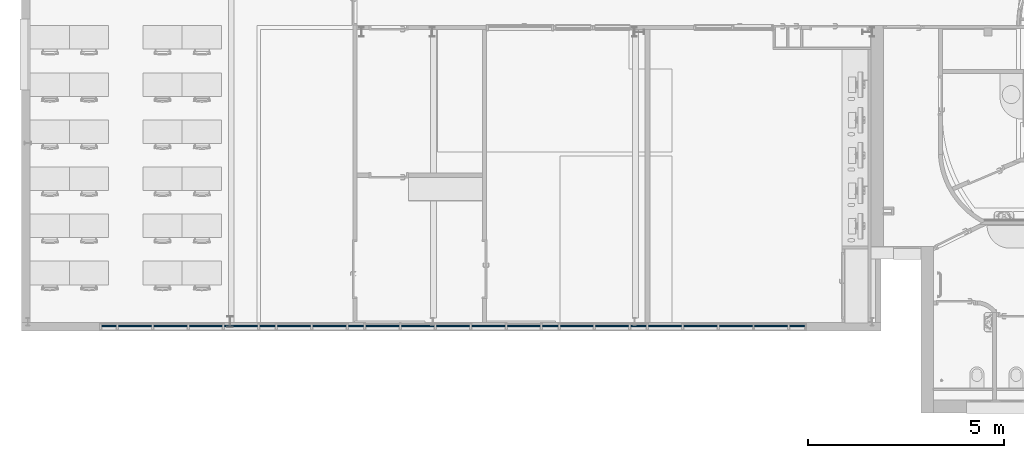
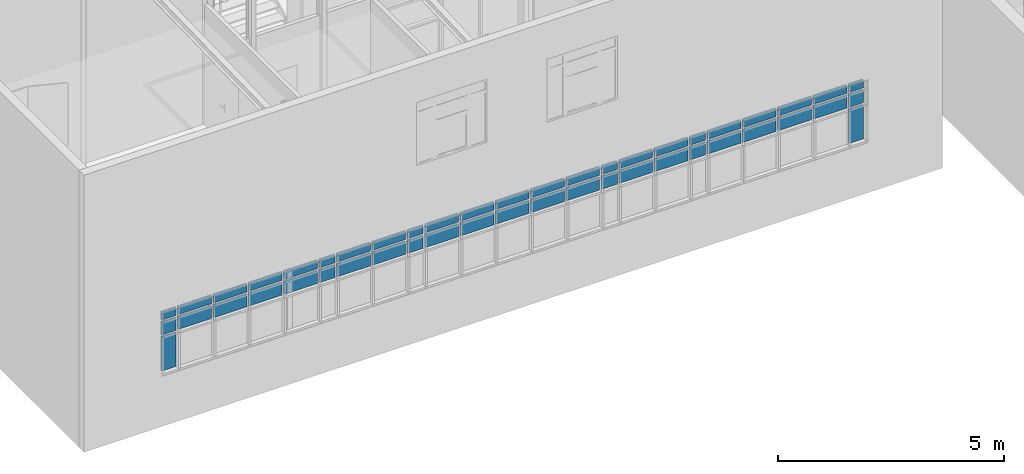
# One storey, part 33 of 137: 48 plates, 1 element without a shape of its own.
"""IFC2X3 building model written with IfcOpenShell, lengths in centimetres."""

from ifc_helpers import new_model, entity, si_unit, converted_unit, derived_unit, direction, frame, frame_2d, origin, place, context, subcontext, project, spatial, rectangle, extrude, source, transform, mapped, material, type_object, type_shapes, element, aggregate, save


model = new_model("IFC2X3")

# Units and contexts
model_context = context("Model", 3, precision=0.001, world=origin(), true_north=direction((6.12303176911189e-17, 1.0)))
body_context = subcontext(model_context, "Body", "Model", "MODEL_VIEW")
ifc_project = project(units=[si_unit("LENGTHUNIT", "METRE", prefix="CENTI"), si_unit("AREAUNIT", "SQUARE_METRE"), si_unit("VOLUMEUNIT", "CUBIC_METRE"), converted_unit("PLANEANGLEUNIT", "DEGREE", entity("IfcRatioMeasure", 0.0174532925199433), si_unit("PLANEANGLEUNIT", "RADIAN"), dimensions=[0, 0, 0, 0, 0, 0, 0]), si_unit("MASSUNIT", "GRAM", prefix="KILO"), si_unit("TIMEUNIT", "SECOND"), si_unit("FREQUENCYUNIT", "HERTZ"), si_unit("THERMODYNAMICTEMPERATUREUNIT", "DEGREE_CELSIUS"), derived_unit("THERMALTRANSMITTANCEUNIT", [(si_unit("MASSUNIT", "GRAM", prefix="KILO"), 1), (si_unit("THERMODYNAMICTEMPERATUREUNIT", "KELVIN"), -1), (si_unit("TIMEUNIT", "SECOND"), -3)]), derived_unit("VOLUMETRICFLOWRATEUNIT", [(si_unit("LENGTHUNIT", "METRE"), 3), (si_unit("TIMEUNIT", "SECOND"), -1)]), si_unit("ELECTRICCURRENTUNIT", "AMPERE"), si_unit("ELECTRICVOLTAGEUNIT", "VOLT"), si_unit("POWERUNIT", "WATT"), si_unit("FORCEUNIT", "NEWTON", prefix="KILO"), si_unit("ILLUMINANCEUNIT", "LUX"), si_unit("LUMINOUSFLUXUNIT", "LUMEN"), si_unit("LUMINOUSINTENSITYUNIT", "CANDELA"), derived_unit("USERDEFINED", [(si_unit("MASSUNIT", "GRAM", prefix="KILO"), -1), (si_unit("LENGTHUNIT", "METRE"), -2), (si_unit("TIMEUNIT", "SECOND"), 3), (si_unit("LUMINOUSFLUXUNIT", "LUMEN"), 1)]), derived_unit("LINEARVELOCITYUNIT", [(si_unit("LENGTHUNIT", "METRE"), 1), (si_unit("TIMEUNIT", "SECOND"), -1)]), si_unit("PRESSUREUNIT", "PASCAL"), derived_unit("USERDEFINED", [(si_unit("LENGTHUNIT", "METRE"), -2), (si_unit("MASSUNIT", "GRAM", prefix="KILO"), 1), (si_unit("TIMEUNIT", "SECOND"), -2)])], contexts=[model_context])

# Site, building, storey
site_placement = place(None, frame((8.62739174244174, -249.285249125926, 0.0)))
site = spatial("IfcSite", under=ifc_project, at=site_placement, Name="Default", CompositionType="ELEMENT")
building_placement = place(site_placement, origin())
building = spatial("IfcBuilding", under=site, at=building_placement, CompositionType="ELEMENT")
storey_placement = place(building_placement, origin())
storey = spatial("IfcBuildingStorey", under=building, at=storey_placement, Name="RDC", CompositionType="ELEMENT", Elevation=-8.82465566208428e-11)

# Curtain wall, plates
curtain_wall_type = type_object("IfcCurtainWallType", Name="Mur-rideau:Simple panneau", PredefinedType="NOTDEFINED")
curtain_wall_placement = place(storey_placement, origin())
curtain_wall = element("IfcCurtainWall", 1, at=curtain_wall_placement, inside=storey, type_object=curtain_wall_type, Name="Mur-rideau:Simple panneau", ObjectType="Mur-rideau:Simple panneau")
ifc_material_1 = material(Name="Par défaut")
plate_type_1 = type_object("IfcPlateType", Name="Plein", PredefinedType="CURTAIN_PANEL", material=ifc_material_1)
shared_shape_1 = source(origin(), body_context, "Body", "SweptSolid", [
    extrude(rectangle(XDim=4.0, YDim=37.5000000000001, at=frame_2d((-4.44089209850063e-16, -1.77635683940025e-15), x_axis=(1.0, 0.0))), frame((0.0, 2.5, 0.0), z_axis=(0.0, 0.0, 1.0), x_axis=(0.0, 1.0, 0.0)), (0.0, 0.0, 1.0), 92.5),
])
type_shapes(plate_type_1, [shared_shape_1])
plate_1_placement = place(curtain_wall_placement, frame((222.75, 11.0, 115.0)))
plate_1 = element("IfcPlate", 2, at=plate_1_placement, type_object=plate_type_1, material=ifc_material_1, Name="Panneau système:Plein", ObjectType="Plein", context=body_context, shape_type="MappedRepresentation", body=[
    mapped(shared_shape_1, transform((0.0, 0.0, 0.0), scale=1.0)),
])
plate_2_placement = place(curtain_wall_placement, frame((1975.25, 11.0, 115.0)))
plate_2 = element("IfcPlate", 3, at=plate_2_placement, type_object=plate_type_1, material=ifc_material_1, Name="Panneau système:Plein", ObjectType="Plein", context=body_context, shape_type="MappedRepresentation", body=[
    mapped(shared_shape_1, transform((0.0, 0.0, 0.0), scale=1.0)),
])
plate_type_2 = type_object("IfcPlateType", Name="Plein", PredefinedType="CURTAIN_PANEL", material=ifc_material_1)
shared_shape_2 = source(origin(), body_context, "Body", "SweptSolid", [
    extrude(rectangle(XDim=4.0, YDim=37.5000000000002, at=frame_2d((-4.44089209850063e-16, 0.0), x_axis=(1.0, 0.0))), frame((0.0, 2.5, 0.0), z_axis=(0.0, 0.0, 1.0), x_axis=(0.0, 1.0, 0.0)), (0.0, 0.0, 1.0), 35.0),
])
type_shapes(plate_type_2, [shared_shape_2])
plate_3_placement = place(curtain_wall_placement, frame((222.75, 11.0, 212.500000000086)))
plate_3 = element("IfcPlate", 4, at=plate_3_placement, type_object=plate_type_2, material=ifc_material_1, Name="Panneau système:Plein", ObjectType="Plein", context=body_context, shape_type="MappedRepresentation", body=[
    mapped(shared_shape_2, transform((0.0, 0.0, 0.0), scale=1.0)),
])
plate_4_placement = place(curtain_wall_placement, frame((1975.25, 11.0, 212.500000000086)))
plate_4 = element("IfcPlate", 5, at=plate_4_placement, type_object=plate_type_2, material=ifc_material_1, Name="Panneau système:Plein", ObjectType="Plein", context=body_context, shape_type="MappedRepresentation", body=[
    mapped(shared_shape_2, transform((0.0, 0.0, 0.0), scale=1.0)),
])
ifc_material_2 = material(Name="Verre")
plate_type_3 = type_object("IfcPlateType", Name="Vitré", PredefinedType="CURTAIN_PANEL", material=ifc_material_2)
shared_shape_3 = source(origin(), body_context, "Body", "SweptSolid", [
    extrude(rectangle(XDim=4.0, YDim=85.0, at=frame_2d((-4.44089209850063e-16, 0.0), x_axis=(1.0, 0.0))), frame((0.0, 2.5, 0.0), z_axis=(0.0, 0.0, 1.0), x_axis=(0.0, 1.0, 0.0)), (0.0, 0.0, 1.0), 35.0),
])
type_shapes(plate_type_3, [shared_shape_3])
plate_5_placement = place(curtain_wall_placement, frame((289.0, 11.0, 212.500000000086)))
plate_5 = element("IfcPlate", 6, at=plate_5_placement, type_object=plate_type_3, material=ifc_material_2, Name="Panneau système:Vitré", ObjectType="Vitré", context=body_context, shape_type="MappedRepresentation", body=[
    mapped(shared_shape_3, transform((0.0, 0.0, 0.0), scale=1.0)),
])
plate_6_placement = place(curtain_wall_placement, frame((379.0, 11.0, 212.500000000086)))
plate_6 = element("IfcPlate", 7, at=plate_6_placement, type_object=plate_type_3, material=ifc_material_2, Name="Panneau système:Vitré", ObjectType="Vitré", context=body_context, shape_type="MappedRepresentation", body=[
    mapped(shared_shape_3, transform((0.0, 0.0, 0.0), scale=1.0)),
])
plate_7_placement = place(curtain_wall_placement, frame((469.0, 11.0, 212.500000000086)))
plate_7 = element("IfcPlate", 8, at=plate_7_placement, type_object=plate_type_3, material=ifc_material_2, Name="Panneau système:Vitré", ObjectType="Vitré", context=body_context, shape_type="MappedRepresentation", body=[
    mapped(shared_shape_3, transform((0.0, 0.0, 0.0), scale=1.0)),
])
plate_8_placement = place(curtain_wall_placement, frame((694.0, 11.0, 212.500000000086)))
plate_8 = element("IfcPlate", 9, at=plate_8_placement, type_object=plate_type_3, material=ifc_material_2, Name="Panneau système:Vitré", ObjectType="Vitré", context=body_context, shape_type="MappedRepresentation", body=[
    mapped(shared_shape_3, transform((0.0, 0.0, 0.0), scale=1.0)),
])
plate_9_placement = place(curtain_wall_placement, frame((784.0, 11.0, 212.500000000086)))
plate_9 = element("IfcPlate", 10, at=plate_9_placement, type_object=plate_type_3, material=ifc_material_2, Name="Panneau système:Vitré", ObjectType="Vitré", context=body_context, shape_type="MappedRepresentation", body=[
    mapped(shared_shape_3, transform((0.0, 0.0, 0.0), scale=1.0)),
])
plate_10_placement = place(curtain_wall_placement, frame((919.0, 11.0, 212.500000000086)))
plate_10 = element("IfcPlate", 11, at=plate_10_placement, type_object=plate_type_3, material=ifc_material_2, Name="Panneau système:Vitré", ObjectType="Vitré", context=body_context, shape_type="MappedRepresentation", body=[
    mapped(shared_shape_3, transform((0.0, 0.0, 0.0), scale=1.0)),
])
plate_11_placement = place(curtain_wall_placement, frame((1279.0, 11.0, 212.500000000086)))
plate_11 = element("IfcPlate", 12, at=plate_11_placement, type_object=plate_type_3, material=ifc_material_2, Name="Panneau système:Vitré", ObjectType="Vitré", context=body_context, shape_type="MappedRepresentation", body=[
    mapped(shared_shape_3, transform((0.0, 0.0, 0.0), scale=1.0)),
])
plate_12_placement = place(curtain_wall_placement, frame((1414.0, 11.0, 212.500000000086)))
plate_12 = element("IfcPlate", 13, at=plate_12_placement, type_object=plate_type_3, material=ifc_material_2, Name="Panneau système:Vitré", ObjectType="Vitré", context=body_context, shape_type="MappedRepresentation", body=[
    mapped(shared_shape_3, transform((0.0, 0.0, 0.0), scale=1.0)),
])
plate_13_placement = place(curtain_wall_placement, frame((1504.0, 11.0, 212.500000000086)))
plate_13 = element("IfcPlate", 14, at=plate_13_placement, type_object=plate_type_3, material=ifc_material_2, Name="Panneau système:Vitré", ObjectType="Vitré", context=body_context, shape_type="MappedRepresentation", body=[
    mapped(shared_shape_3, transform((0.0, 0.0, 0.0), scale=1.0)),
])
plate_14_placement = place(curtain_wall_placement, frame((1729.0, 11.0, 212.500000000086)))
plate_14 = element("IfcPlate", 15, at=plate_14_placement, type_object=plate_type_3, material=ifc_material_2, Name="Panneau système:Vitré", ObjectType="Vitré", context=body_context, shape_type="MappedRepresentation", body=[
    mapped(shared_shape_3, transform((0.0, 0.0, 0.0), scale=1.0)),
])
plate_15_placement = place(curtain_wall_placement, frame((1819.0, 11.0, 212.500000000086)))
plate_15 = element("IfcPlate", 16, at=plate_15_placement, type_object=plate_type_3, material=ifc_material_2, Name="Panneau système:Vitré", ObjectType="Vitré", context=body_context, shape_type="MappedRepresentation", body=[
    mapped(shared_shape_3, transform((0.0, 0.0, 0.0), scale=1.0)),
])
plate_16_placement = place(curtain_wall_placement, frame((1909.0, 11.0, 212.500000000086)))
plate_16 = element("IfcPlate", 17, at=plate_16_placement, type_object=plate_type_3, material=ifc_material_2, Name="Panneau système:Vitré", ObjectType="Vitré", context=body_context, shape_type="MappedRepresentation", body=[
    mapped(shared_shape_3, transform((0.0, 0.0, 0.0), scale=1.0)),
])
plate_type_4 = type_object("IfcPlateType", Name="Plein", PredefinedType="CURTAIN_PANEL", material=ifc_material_1)
shared_shape_4 = source(origin(), body_context, "Body", "SweptSolid", [
    extrude(rectangle(XDim=4.0, YDim=85.0000000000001, at=frame_2d((-4.44089209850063e-16, 0.0), x_axis=(1.0, 0.0))), frame((0.0, 2.5, 0.0), z_axis=(0.0, 0.0, 1.0), x_axis=(0.0, 1.0, 0.0)), (0.0, 0.0, 1.0), 35.0),
])
type_shapes(plate_type_4, [shared_shape_4])
plate_17_placement = place(curtain_wall_placement, frame((559.0, 11.0, 212.500000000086)))
plate_17 = element("IfcPlate", 18, at=plate_17_placement, type_object=plate_type_4, material=ifc_material_1, Name="Panneau système:Plein", ObjectType="Plein", context=body_context, shape_type="MappedRepresentation", body=[
    mapped(shared_shape_4, transform((0.0, 0.0, 0.0), scale=1.0)),
])
plate_18_placement = place(curtain_wall_placement, frame((1009.0, 11.0, 212.500000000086)))
plate_18 = element("IfcPlate", 19, at=plate_18_placement, type_object=plate_type_4, material=ifc_material_1, Name="Panneau système:Plein", ObjectType="Plein", context=body_context, shape_type="MappedRepresentation", body=[
    mapped(shared_shape_4, transform((0.0, 0.0, 0.0), scale=1.0)),
])
plate_19_placement = place(curtain_wall_placement, frame((1099.0, 11.0, 212.500000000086)))
plate_19 = element("IfcPlate", 20, at=plate_19_placement, type_object=plate_type_4, material=ifc_material_1, Name="Panneau système:Plein", ObjectType="Plein", context=body_context, shape_type="MappedRepresentation", body=[
    mapped(shared_shape_4, transform((0.0, 0.0, 0.0), scale=1.0)),
])
plate_20_placement = place(curtain_wall_placement, frame((1189.0, 11.0, 212.500000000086)))
plate_20 = element("IfcPlate", 21, at=plate_20_placement, type_object=plate_type_4, material=ifc_material_1, Name="Panneau système:Plein", ObjectType="Plein", context=body_context, shape_type="MappedRepresentation", body=[
    mapped(shared_shape_4, transform((0.0, 0.0, 0.0), scale=1.0)),
])
plate_21_placement = place(curtain_wall_placement, frame((1639.0, 11.0, 212.500000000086)))
plate_21 = element("IfcPlate", 22, at=plate_21_placement, type_object=plate_type_4, material=ifc_material_1, Name="Panneau système:Plein", ObjectType="Plein", context=body_context, shape_type="MappedRepresentation", body=[
    mapped(shared_shape_4, transform((0.0, 0.0, 0.0), scale=1.0)),
])
plate_type_5 = type_object("IfcPlateType", Name="Plein", PredefinedType="CURTAIN_PANEL", material=ifc_material_1)
shared_shape_5 = source(origin(), body_context, "Body", "SweptSolid", [
    extrude(rectangle(XDim=4.0, YDim=40.0000000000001, at=frame_2d((-4.44089209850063e-16, 0.0), x_axis=(1.0, 0.0))), frame((0.0, 2.5, 0.0), z_axis=(0.0, 0.0, 1.0), x_axis=(0.0, 1.0, 0.0)), (0.0, 0.0, 1.0), 35.0),
])
type_shapes(plate_type_5, [shared_shape_5])
plate_22_placement = place(curtain_wall_placement, frame((626.5, 11.0, 212.500000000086)))
plate_22 = element("IfcPlate", 23, at=plate_22_placement, type_object=plate_type_5, material=ifc_material_1, Name="Panneau système:Plein", ObjectType="Plein", context=body_context, shape_type="MappedRepresentation", body=[
    mapped(shared_shape_5, transform((0.0, 0.0, 0.0), scale=1.0)),
])
plate_23_placement = place(curtain_wall_placement, frame((851.5, 11.0, 212.500000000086)))
plate_23 = element("IfcPlate", 24, at=plate_23_placement, type_object=plate_type_5, material=ifc_material_1, Name="Panneau système:Plein", ObjectType="Plein", context=body_context, shape_type="MappedRepresentation", body=[
    mapped(shared_shape_5, transform((0.0, 0.0, 0.0), scale=1.0)),
])
plate_24_placement = place(curtain_wall_placement, frame((1346.5, 11.0, 212.500000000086)))
plate_24 = element("IfcPlate", 25, at=plate_24_placement, type_object=plate_type_5, material=ifc_material_1, Name="Panneau système:Plein", ObjectType="Plein", context=body_context, shape_type="MappedRepresentation", body=[
    mapped(shared_shape_5, transform((0.0, 0.0, 0.0), scale=1.0)),
])
plate_25_placement = place(curtain_wall_placement, frame((1571.5, 11.0, 212.500000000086)))
plate_25 = element("IfcPlate", 26, at=plate_25_placement, type_object=plate_type_5, material=ifc_material_1, Name="Panneau système:Plein", ObjectType="Plein", context=body_context, shape_type="MappedRepresentation", body=[
    mapped(shared_shape_5, transform((0.0, 0.0, 0.0), scale=1.0)),
])
plate_type_6 = type_object("IfcPlateType", Name="Plein", PredefinedType="CURTAIN_PANEL", material=ifc_material_1)
shared_shape_6 = source(origin(), body_context, "Body", "SweptSolid", [
    extrude(rectangle(XDim=4.0, YDim=37.5000000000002, at=frame_2d((-4.44089209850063e-16, 0.0), x_axis=(1.0, 0.0))), frame((0.0, 2.5, 0.0), z_axis=(0.0, 0.0, 1.0), x_axis=(0.0, 1.0, 0.0)), (0.0, 0.0, 1.0), 22.5),
])
type_shapes(plate_type_6, [shared_shape_6])
plate_26_placement = place(curtain_wall_placement, frame((222.75, 11.0, 252.500000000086)))
plate_26 = element("IfcPlate", 27, at=plate_26_placement, type_object=plate_type_6, material=ifc_material_1, Name="Panneau système:Plein", ObjectType="Plein", context=body_context, shape_type="MappedRepresentation", body=[
    mapped(shared_shape_6, transform((0.0, 0.0, 0.0), scale=1.0)),
])
plate_27_placement = place(curtain_wall_placement, frame((1975.25, 11.0, 252.500000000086)))
plate_27 = element("IfcPlate", 28, at=plate_27_placement, type_object=plate_type_6, material=ifc_material_1, Name="Panneau système:Plein", ObjectType="Plein", context=body_context, shape_type="MappedRepresentation", body=[
    mapped(shared_shape_6, transform((0.0, 0.0, 0.0), scale=1.0)),
])
plate_type_7 = type_object("IfcPlateType", Name="Plein", PredefinedType="CURTAIN_PANEL", material=ifc_material_1)
shared_shape_7 = source(origin(), body_context, "Body", "SweptSolid", [
    extrude(rectangle(XDim=4.0, YDim=84.9999999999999, at=frame_2d((-4.44089209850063e-16, 0.0), x_axis=(1.0, 0.0))), frame((0.0, 2.5, 0.0), z_axis=(0.0, 0.0, 1.0), x_axis=(0.0, 1.0, 0.0)), (0.0, 0.0, 1.0), 22.5),
])
type_shapes(plate_type_7, [shared_shape_7])
plate_28_placement = place(curtain_wall_placement, frame((289.0, 11.0, 252.500000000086)))
plate_28 = element("IfcPlate", 29, at=plate_28_placement, type_object=plate_type_7, material=ifc_material_1, Name="Panneau système:Plein", ObjectType="Plein", context=body_context, shape_type="MappedRepresentation", body=[
    mapped(shared_shape_7, transform((0.0, 0.0, 0.0), scale=1.0)),
])
plate_29_placement = place(curtain_wall_placement, frame((379.0, 11.0, 252.500000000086)))
plate_29 = element("IfcPlate", 30, at=plate_29_placement, type_object=plate_type_7, material=ifc_material_1, Name="Panneau système:Plein", ObjectType="Plein", context=body_context, shape_type="MappedRepresentation", body=[
    mapped(shared_shape_7, transform((0.0, 0.0, 0.0), scale=1.0)),
])
plate_30_placement = place(curtain_wall_placement, frame((469.0, 11.0, 252.500000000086)))
plate_30 = element("IfcPlate", 31, at=plate_30_placement, type_object=plate_type_7, material=ifc_material_1, Name="Panneau système:Plein", ObjectType="Plein", context=body_context, shape_type="MappedRepresentation", body=[
    mapped(shared_shape_7, transform((0.0, 0.0, 0.0), scale=1.0)),
])
plate_31_placement = place(curtain_wall_placement, frame((559.0, 11.0, 252.500000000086)))
plate_31 = element("IfcPlate", 32, at=plate_31_placement, type_object=plate_type_7, material=ifc_material_1, Name="Panneau système:Plein", ObjectType="Plein", context=body_context, shape_type="MappedRepresentation", body=[
    mapped(shared_shape_7, transform((0.0, 0.0, 0.0), scale=1.0)),
])
plate_32_placement = place(curtain_wall_placement, frame((694.0, 11.0, 252.500000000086)))
plate_32 = element("IfcPlate", 33, at=plate_32_placement, type_object=plate_type_7, material=ifc_material_1, Name="Panneau système:Plein", ObjectType="Plein", context=body_context, shape_type="MappedRepresentation", body=[
    mapped(shared_shape_7, transform((0.0, 0.0, 0.0), scale=1.0)),
])
plate_33_placement = place(curtain_wall_placement, frame((784.0, 11.0, 252.500000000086)))
plate_33 = element("IfcPlate", 34, at=plate_33_placement, type_object=plate_type_7, material=ifc_material_1, Name="Panneau système:Plein", ObjectType="Plein", context=body_context, shape_type="MappedRepresentation", body=[
    mapped(shared_shape_7, transform((0.0, 0.0, 0.0), scale=1.0)),
])
plate_34_placement = place(curtain_wall_placement, frame((919.0, 11.0, 252.500000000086)))
plate_34 = element("IfcPlate", 35, at=plate_34_placement, type_object=plate_type_7, material=ifc_material_1, Name="Panneau système:Plein", ObjectType="Plein", context=body_context, shape_type="MappedRepresentation", body=[
    mapped(shared_shape_7, transform((0.0, 0.0, 0.0), scale=1.0)),
])
plate_35_placement = place(curtain_wall_placement, frame((1009.0, 11.0, 252.500000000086)))
plate_35 = element("IfcPlate", 36, at=plate_35_placement, type_object=plate_type_7, material=ifc_material_1, Name="Panneau système:Plein", ObjectType="Plein", context=body_context, shape_type="MappedRepresentation", body=[
    mapped(shared_shape_7, transform((0.0, 0.0, 0.0), scale=1.0)),
])
plate_36_placement = place(curtain_wall_placement, frame((1099.0, 11.0, 252.500000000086)))
plate_36 = element("IfcPlate", 37, at=plate_36_placement, type_object=plate_type_7, material=ifc_material_1, Name="Panneau système:Plein", ObjectType="Plein", context=body_context, shape_type="MappedRepresentation", body=[
    mapped(shared_shape_7, transform((0.0, 0.0, 0.0), scale=1.0)),
])
plate_37_placement = place(curtain_wall_placement, frame((1189.0, 11.0, 252.500000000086)))
plate_37 = element("IfcPlate", 38, at=plate_37_placement, type_object=plate_type_7, material=ifc_material_1, Name="Panneau système:Plein", ObjectType="Plein", context=body_context, shape_type="MappedRepresentation", body=[
    mapped(shared_shape_7, transform((0.0, 0.0, 0.0), scale=1.0)),
])
plate_38_placement = place(curtain_wall_placement, frame((1279.0, 11.0, 252.500000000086)))
plate_38 = element("IfcPlate", 39, at=plate_38_placement, type_object=plate_type_7, material=ifc_material_1, Name="Panneau système:Plein", ObjectType="Plein", context=body_context, shape_type="MappedRepresentation", body=[
    mapped(shared_shape_7, transform((0.0, 0.0, 0.0), scale=1.0)),
])
plate_39_placement = place(curtain_wall_placement, frame((1414.0, 11.0, 252.500000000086)))
plate_39 = element("IfcPlate", 40, at=plate_39_placement, type_object=plate_type_7, material=ifc_material_1, Name="Panneau système:Plein", ObjectType="Plein", context=body_context, shape_type="MappedRepresentation", body=[
    mapped(shared_shape_7, transform((0.0, 0.0, 0.0), scale=1.0)),
])
plate_40_placement = place(curtain_wall_placement, frame((1504.0, 11.0, 252.500000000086)))
plate_40 = element("IfcPlate", 41, at=plate_40_placement, type_object=plate_type_7, material=ifc_material_1, Name="Panneau système:Plein", ObjectType="Plein", context=body_context, shape_type="MappedRepresentation", body=[
    mapped(shared_shape_7, transform((0.0, 0.0, 0.0), scale=1.0)),
])
plate_41_placement = place(curtain_wall_placement, frame((1639.0, 11.0, 252.500000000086)))
plate_41 = element("IfcPlate", 42, at=plate_41_placement, type_object=plate_type_7, material=ifc_material_1, Name="Panneau système:Plein", ObjectType="Plein", context=body_context, shape_type="MappedRepresentation", body=[
    mapped(shared_shape_7, transform((0.0, 0.0, 0.0), scale=1.0)),
])
plate_42_placement = place(curtain_wall_placement, frame((1729.0, 11.0, 252.500000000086)))
plate_42 = element("IfcPlate", 43, at=plate_42_placement, type_object=plate_type_7, material=ifc_material_1, Name="Panneau système:Plein", ObjectType="Plein", context=body_context, shape_type="MappedRepresentation", body=[
    mapped(shared_shape_7, transform((0.0, 0.0, 0.0), scale=1.0)),
])
plate_43_placement = place(curtain_wall_placement, frame((1819.0, 11.0, 252.500000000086)))
plate_43 = element("IfcPlate", 44, at=plate_43_placement, type_object=plate_type_7, material=ifc_material_1, Name="Panneau système:Plein", ObjectType="Plein", context=body_context, shape_type="MappedRepresentation", body=[
    mapped(shared_shape_7, transform((0.0, 0.0, 0.0), scale=1.0)),
])
plate_44_placement = place(curtain_wall_placement, frame((1909.0, 11.0, 252.500000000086)))
plate_44 = element("IfcPlate", 45, at=plate_44_placement, type_object=plate_type_7, material=ifc_material_1, Name="Panneau système:Plein", ObjectType="Plein", context=body_context, shape_type="MappedRepresentation", body=[
    mapped(shared_shape_7, transform((0.0, 0.0, 0.0), scale=1.0)),
])
plate_type_8 = type_object("IfcPlateType", Name="Plein", PredefinedType="CURTAIN_PANEL", material=ifc_material_1)
shared_shape_8 = source(origin(), body_context, "Body", "SweptSolid", [
    extrude(rectangle(XDim=4.0, YDim=40.0000000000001, at=frame_2d((-4.44089209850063e-16, 0.0), x_axis=(1.0, 0.0))), frame((0.0, 2.5, 0.0), z_axis=(0.0, 0.0, 1.0), x_axis=(0.0, 1.0, 0.0)), (0.0, 0.0, 1.0), 22.5),
])
type_shapes(plate_type_8, [shared_shape_8])
plate_45_placement = place(curtain_wall_placement, frame((626.5, 11.0, 252.500000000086)))
plate_45 = element("IfcPlate", 46, at=plate_45_placement, type_object=plate_type_8, material=ifc_material_1, Name="Panneau système:Plein", ObjectType="Plein", context=body_context, shape_type="MappedRepresentation", body=[
    mapped(shared_shape_8, transform((0.0, 0.0, 0.0), scale=1.0)),
])
plate_46_placement = place(curtain_wall_placement, frame((851.5, 11.0, 252.500000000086)))
plate_46 = element("IfcPlate", 47, at=plate_46_placement, type_object=plate_type_8, material=ifc_material_1, Name="Panneau système:Plein", ObjectType="Plein", context=body_context, shape_type="MappedRepresentation", body=[
    mapped(shared_shape_8, transform((0.0, 0.0, 0.0), scale=1.0)),
])
plate_47_placement = place(curtain_wall_placement, frame((1346.5, 11.0, 252.500000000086)))
plate_47 = element("IfcPlate", 48, at=plate_47_placement, type_object=plate_type_8, material=ifc_material_1, Name="Panneau système:Plein", ObjectType="Plein", context=body_context, shape_type="MappedRepresentation", body=[
    mapped(shared_shape_8, transform((0.0, 0.0, 0.0), scale=1.0)),
])
plate_48_placement = place(curtain_wall_placement, frame((1571.5, 11.0, 252.500000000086)))
plate_48 = element("IfcPlate", 49, at=plate_48_placement, type_object=plate_type_8, material=ifc_material_1, Name="Panneau système:Plein", ObjectType="Plein", context=body_context, shape_type="MappedRepresentation", body=[
    mapped(shared_shape_8, transform((0.0, 0.0, 0.0), scale=1.0)),
])
aggregate(curtain_wall, [plate_1, plate_2, plate_3, plate_5, plate_6, plate_7, plate_17, plate_22, plate_8, plate_9, plate_23, plate_10, plate_18, plate_19, plate_20, plate_11, plate_24, plate_12, plate_13, plate_25, plate_21, plate_14, plate_15, plate_16, plate_4, plate_26, plate_28, plate_29, plate_30, plate_31, plate_45, plate_32, plate_33, plate_46, plate_34, plate_35, plate_36, plate_37, plate_38, plate_47, plate_39, plate_40, plate_48, plate_41, plate_42, plate_43, plate_44, plate_27])

save(model, "model.ifc")
